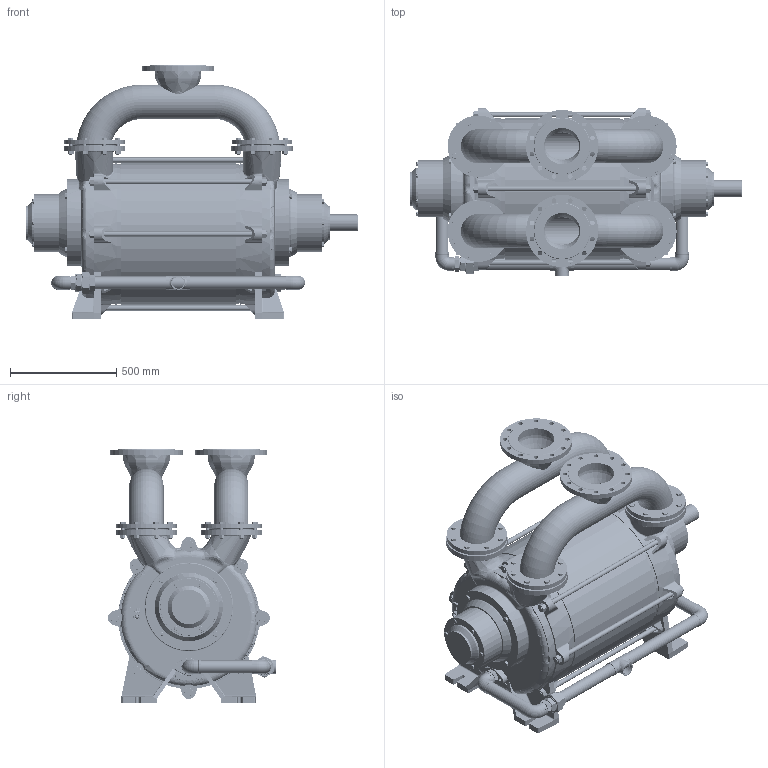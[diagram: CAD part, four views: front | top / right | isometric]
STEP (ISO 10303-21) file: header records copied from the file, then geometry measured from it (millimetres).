
FILE_DESCRIPTION (( 'STEP AP214' ), '1' );
FILE_NAME ('GMPT 520 530 MONTAJ.STEP', '2024-05-14T10:22:59', ( '' ), ( '' ), 'SwSTEP 2.0', 'SolidWorks 2024', '' );
FILE_SCHEMA (( 'AUTOMOTIVE_DESIGN' ));
Length unit declared in the file: millimetre
Products named in the file (1): GMPT 520 530 MONTAJ
Bounding box: 1564.4 x 792.54 x 1195.79 mm (x, y, z)
Volume: 395509787.5 mm3; surface area: 9809757.1 mm2
Topology: 97 solids, 129 shells, 4811 faces, 10957 edges, 6484 vertices
Faces by surface type: plane 1888, cylinder 1288, cone 1030, torus 312, bspline 246, sphere 47
Entity records: 206185 total; most frequent: CARTESIAN_POINT 99526, DIRECTION 22234, ORIENTED_EDGE 21742, EDGE_CURVE 10871, AXIS2_PLACEMENT_3D 9117, VERTEX_POINT 6482, EDGE_LOOP 5315, ADVANCED_FACE 4811
